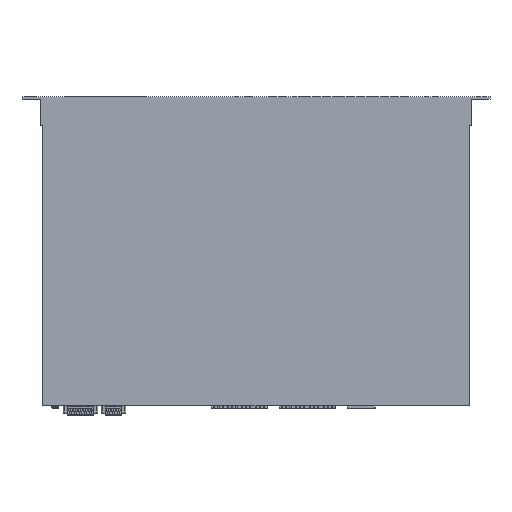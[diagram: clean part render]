
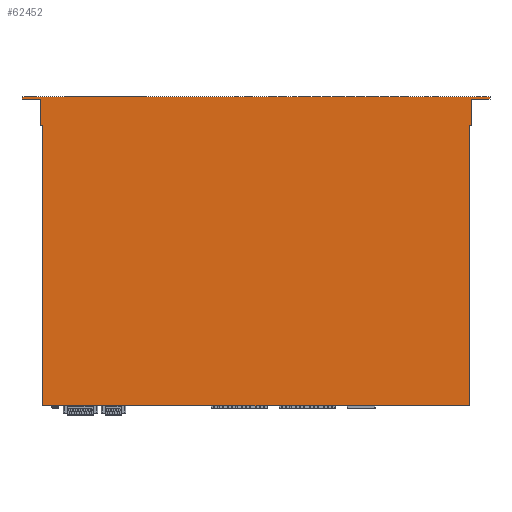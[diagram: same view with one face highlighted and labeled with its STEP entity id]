
A CAD part, top view. The second image highlights one B-rep face of the part: STEP entity #62452.
In plain terms, the highlighted planar face has unit normal (0, 0, 1).
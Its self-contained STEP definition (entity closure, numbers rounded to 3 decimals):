
#5621=CARTESIAN_POINT('',(-21.3,0.,44.));
#5622=VERTEX_POINT('',#5621);
#5629=CARTESIAN_POINT('',(-461.3,0.,44.));
#5630=VERTEX_POINT('',#5629);
#5631=CARTESIAN_POINT('',(-461.3,-0.,44.));
#5632=DIRECTION('',(1.,0.,-0.));
#5633=VECTOR('',#5632,440.);
#5634=LINE('',#5631,#5633);
#5635=EDGE_CURVE('',#5630,#5622,#5634,.T.);
#61747=CARTESIAN_POINT('',(-463.8,316.3,44.));
#61748=VERTEX_POINT('',#61747);
#61755=CARTESIAN_POINT('',(-482.6,316.3,44.));
#61756=VERTEX_POINT('',#61755);
#61757=CARTESIAN_POINT('',(-463.8,316.3,44.));
#61758=DIRECTION('',(-1.,-0.,0.));
#61759=VECTOR('',#61758,18.8);
#61760=LINE('',#61757,#61759);
#61761=EDGE_CURVE('',#61748,#61756,#61760,.T.);
#61791=CARTESIAN_POINT('',(-482.6,318.8,44.));
#61792=VERTEX_POINT('',#61791);
#61793=CARTESIAN_POINT('',(-482.6,316.3,44.));
#61794=DIRECTION('',(-0.,1.,0.));
#61795=VECTOR('',#61794,2.5);
#61796=LINE('',#61793,#61795);
#61797=EDGE_CURVE('',#61756,#61792,#61796,.T.);
#61892=CARTESIAN_POINT('',(0.,318.8,44.));
#61893=VERTEX_POINT('',#61892);
#61894=CARTESIAN_POINT('',(-482.6,318.8,44.));
#61895=DIRECTION('',(1.,0.,0.));
#61896=VECTOR('',#61895,482.6);
#61897=LINE('',#61894,#61896);
#61898=EDGE_CURVE('',#61792,#61893,#61897,.T.);
#62190=CARTESIAN_POINT('',(0.,316.3,44.));
#62191=VERTEX_POINT('',#62190);
#62205=CARTESIAN_POINT('',(-0.,318.8,44.));
#62206=DIRECTION('',(0.,-1.,-0.));
#62207=VECTOR('',#62206,2.5);
#62208=LINE('',#62205,#62207);
#62209=EDGE_CURVE('',#61893,#62191,#62208,.T.);
#62220=CARTESIAN_POINT('',(-18.8,316.3,44.));
#62221=VERTEX_POINT('',#62220);
#62222=CARTESIAN_POINT('',(-18.8,316.3,44.));
#62223=DIRECTION('',(1.,0.,-0.));
#62224=VECTOR('',#62223,18.8);
#62225=LINE('',#62222,#62224);
#62226=EDGE_CURVE('',#62221,#62191,#62225,.T.);
#62273=CARTESIAN_POINT('',(-463.8,288.8,44.));
#62274=VERTEX_POINT('',#62273);
#62281=CARTESIAN_POINT('',(-463.8,288.8,44.));
#62282=DIRECTION('',(-0.,1.,0.));
#62283=VECTOR('',#62282,27.5);
#62284=LINE('',#62281,#62283);
#62285=EDGE_CURVE('',#62274,#61748,#62284,.T.);
#62297=CARTESIAN_POINT('',(-18.8,288.8,44.));
#62298=VERTEX_POINT('',#62297);
#62299=CARTESIAN_POINT('',(-18.8,288.8,44.));
#62300=DIRECTION('',(-0.,1.,0.));
#62301=VECTOR('',#62300,27.5);
#62302=LINE('',#62299,#62301);
#62303=EDGE_CURVE('',#62298,#62221,#62302,.T.);
#62337=CARTESIAN_POINT('',(-461.3,288.8,44.));
#62338=VERTEX_POINT('',#62337);
#62345=CARTESIAN_POINT('',(-461.3,288.8,44.));
#62346=DIRECTION('',(-1.,-0.,0.));
#62347=VECTOR('',#62346,2.5);
#62348=LINE('',#62345,#62347);
#62349=EDGE_CURVE('',#62338,#62274,#62348,.T.);
#62361=CARTESIAN_POINT('',(-21.3,288.8,44.));
#62362=VERTEX_POINT('',#62361);
#62363=CARTESIAN_POINT('',(-21.3,288.8,44.));
#62364=DIRECTION('',(1.,0.,-0.));
#62365=VECTOR('',#62364,2.5);
#62366=LINE('',#62363,#62365);
#62367=EDGE_CURVE('',#62362,#62298,#62366,.T.);
#62392=CARTESIAN_POINT('',(-461.3,-0.,44.));
#62393=DIRECTION('',(-0.,1.,-0.));
#62394=VECTOR('',#62393,288.8);
#62395=LINE('',#62392,#62394);
#62396=EDGE_CURVE('',#5630,#62338,#62395,.T.);
#62416=CARTESIAN_POINT('',(-21.3,288.8,44.));
#62417=DIRECTION('',(0.,-1.,0.));
#62418=VECTOR('',#62417,288.8);
#62419=LINE('',#62416,#62418);
#62420=EDGE_CURVE('',#62362,#5622,#62419,.T.);
#62433=CARTESIAN_POINT('',(-241.3,158.65,44.));
#62434=DIRECTION('',(0.,0.,-1.));
#62435=DIRECTION('',(-1.,-0.,0.));
#62436=AXIS2_PLACEMENT_3D('',#62433,#62434,#62435);
#62437=PLANE('',#62436);
#62438=ORIENTED_EDGE('',*,*,#62349,.F.);
#62439=ORIENTED_EDGE('',*,*,#62396,.F.);
#62440=ORIENTED_EDGE('',*,*,#5635,.T.);
#62441=ORIENTED_EDGE('',*,*,#62420,.F.);
#62442=ORIENTED_EDGE('',*,*,#62367,.T.);
#62443=ORIENTED_EDGE('',*,*,#62303,.T.);
#62444=ORIENTED_EDGE('',*,*,#62226,.T.);
#62445=ORIENTED_EDGE('',*,*,#62209,.F.);
#62446=ORIENTED_EDGE('',*,*,#61898,.F.);
#62447=ORIENTED_EDGE('',*,*,#61797,.F.);
#62448=ORIENTED_EDGE('',*,*,#61761,.F.);
#62449=ORIENTED_EDGE('',*,*,#62285,.F.);
#62450=EDGE_LOOP('',(#62438,#62439,#62440,#62441,#62442,#62443,#62444,#62445,#62446,#62447,#62448,#62449));
#62451=FACE_BOUND('',#62450,.T.);
#62452=ADVANCED_FACE('',(#62451),#62437,.F.);
